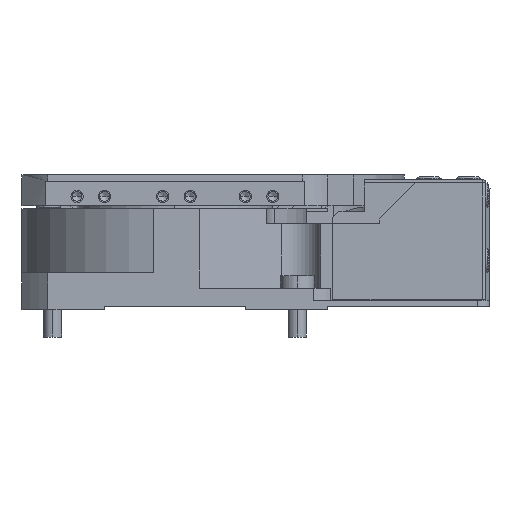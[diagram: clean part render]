
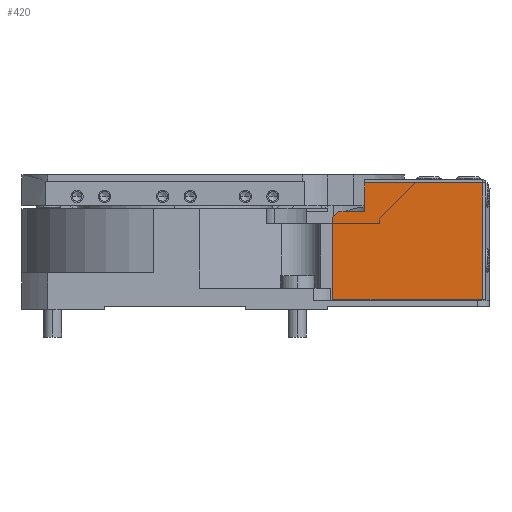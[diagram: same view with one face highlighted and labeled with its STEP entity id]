
A CAD part, left-side view. The second image highlights one B-rep face of the part: STEP entity #420.
In plain terms, the highlighted planar face has unit normal (-1, 0, 0).
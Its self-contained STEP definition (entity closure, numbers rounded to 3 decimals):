
#420=ADVANCED_FACE('',(#3664),#3663,.T.);
#3663=PLANE('',#17262);
#3664=FACE_OUTER_BOUND('',#17263,.T.);
#17259=CARTESIAN_POINT('',(-24.5,-52.75,-0.31));
#17260=DIRECTION('',(-1.,0.,0.));
#17261=DIRECTION('',(0.,0.,1.));
#17262=AXIS2_PLACEMENT_3D('',#17259,#17260,#17261);
#17263=EDGE_LOOP('',(#26478,#26479,#26480,#26481,#26482,#26483,#26484));
#26478=ORIENTED_EDGE('',*,*,#33216,.F.);
#26479=ORIENTED_EDGE('',*,*,#33218,.T.);
#26480=ORIENTED_EDGE('',*,*,#33209,.F.);
#26481=ORIENTED_EDGE('',*,*,#33219,.F.);
#26482=ORIENTED_EDGE('',*,*,#33220,.T.);
#26483=ORIENTED_EDGE('',*,*,#33221,.F.);
#26484=ORIENTED_EDGE('',*,*,#33222,.F.);
#33209=EDGE_CURVE('',#40812,#40813,#40814,.T.);
#33216=EDGE_CURVE('',#40855,#40862,#40863,.T.);
#33218=EDGE_CURVE('',#40855,#40813,#40875,.T.);
#33219=EDGE_CURVE('',#40881,#40812,#40882,.T.);
#33220=EDGE_CURVE('',#40881,#40888,#40889,.T.);
#33221=EDGE_CURVE('',#40895,#40888,#40896,.T.);
#33222=EDGE_CURVE('',#40862,#40895,#40902,.T.);
#40812=VERTEX_POINT('',#62807);
#40813=VERTEX_POINT('',#62808);
#40814=LINE('',#62809,#62810);
#40855=VERTEX_POINT('',#62832);
#40862=VERTEX_POINT('',#62836);
#40863=LINE('',#62837,#62838);
#40875=LINE('',#62843,#62844);
#40881=VERTEX_POINT('',#62846);
#40882=LINE('',#62847,#62848);
#40888=VERTEX_POINT('',#62850);
#40889=LINE('',#62851,#62852);
#40895=VERTEX_POINT('',#62854);
#40896=LINE('',#62855,#62856);
#40902=LINE('',#62858,#62859);
#62807=CARTESIAN_POINT('',(-24.5,-25.8,1.6));
#62808=CARTESIAN_POINT('',(-24.5,-25.8,15.));
#62809=CARTESIAN_POINT('',(-24.5,-25.8,1.6));
#62810=VECTOR('',#62811,13.4);
#62811=DIRECTION('',(0.,0.,1.));
#62832=CARTESIAN_POINT('',(-24.5,-26.8,16.));
#62836=CARTESIAN_POINT('',(-24.5,-31.,16.));
#62837=CARTESIAN_POINT('',(-24.5,-26.8,16.));
#62838=VECTOR('',#62839,4.2);
#62839=DIRECTION('',(0.,-1.,0.));
#62843=CARTESIAN_POINT('',(-24.5,-26.8,16.));
#62844=VECTOR('',#62845,1.414);
#62845=DIRECTION('',(0.,0.707,-0.707));
#62846=CARTESIAN_POINT('',(-24.5,-50.3,1.6));
#62847=CARTESIAN_POINT('',(-24.5,-50.3,1.6));
#62848=VECTOR('',#62849,24.5);
#62849=DIRECTION('',(0.,1.,0.));
#62850=CARTESIAN_POINT('',(-24.5,-50.3,20.699));
#62851=CARTESIAN_POINT('',(-24.5,-50.3,1.6));
#62852=VECTOR('',#62853,19.099);
#62853=DIRECTION('',(0.,0.,1.));
#62854=CARTESIAN_POINT('',(-24.5,-31.,20.699));
#62855=CARTESIAN_POINT('',(-24.5,-31.,20.699));
#62856=VECTOR('',#62857,19.3);
#62857=DIRECTION('',(0.,-1.,0.));
#62858=CARTESIAN_POINT('',(-24.5,-31.,16.));
#62859=VECTOR('',#62860,4.699);
#62860=DIRECTION('',(0.,0.,1.));
